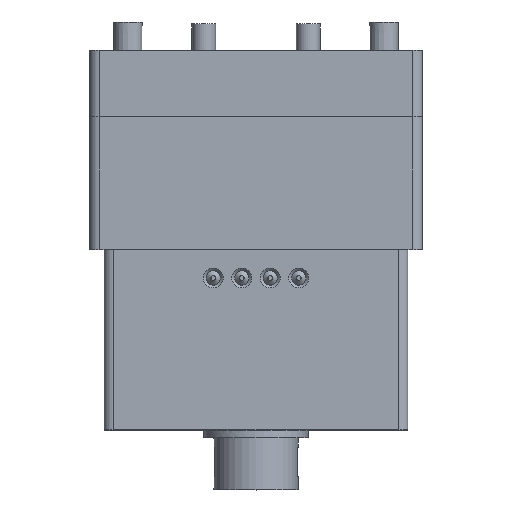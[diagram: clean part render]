
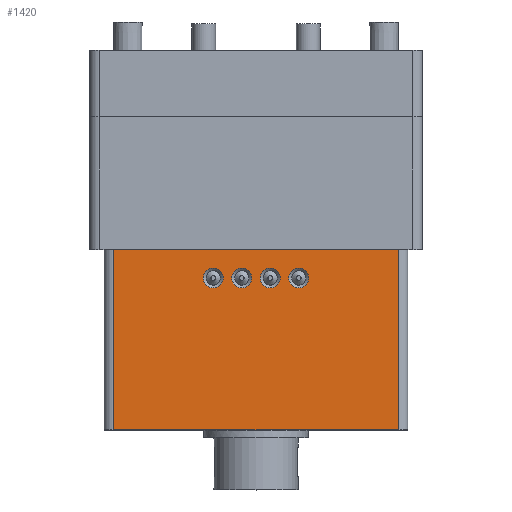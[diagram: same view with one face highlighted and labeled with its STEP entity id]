
A CAD part, top view. The second image highlights one B-rep face of the part: STEP entity #1420.
In plain terms, the highlighted planar face has unit normal (0, 0, 1).
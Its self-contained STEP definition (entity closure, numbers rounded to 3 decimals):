
#1420=ADVANCED_FACE('',(#3397,#3398,#3399,#3400,#3401),#3402,.T.);
#3397=FACE_BOUND('',#5902,.T.);
#3398=FACE_BOUND('',#5903,.T.);
#3399=FACE_BOUND('',#5904,.T.);
#3400=FACE_BOUND('',#5905,.T.);
#3401=FACE_OUTER_BOUND('',#5906,.T.);
#3402=PLANE('',#5907);
#5902=EDGE_LOOP('',(#10645));
#5903=EDGE_LOOP('',(#10646));
#5904=EDGE_LOOP('',(#10647));
#5905=EDGE_LOOP('',(#10648));
#5906=EDGE_LOOP('',(#10649,#10650,#10651,#10652));
#5907=AXIS2_PLACEMENT_3D('',#10653,#10654,#10655);
#10645=ORIENTED_EDGE('',*,*,#14064,.T.);
#10646=ORIENTED_EDGE('',*,*,#14065,.T.);
#10647=ORIENTED_EDGE('',*,*,#14066,.T.);
#10648=ORIENTED_EDGE('',*,*,#14067,.T.);
#10649=ORIENTED_EDGE('',*,*,#14068,.T.);
#10650=ORIENTED_EDGE('',*,*,#13997,.T.);
#10651=ORIENTED_EDGE('',*,*,#14054,.T.);
#10652=ORIENTED_EDGE('',*,*,#14031,.T.);
#10653=CARTESIAN_POINT('',(-16.0,-38.,21.0));
#10654=DIRECTION('',(0.0,0.0,1.0));
#10655=DIRECTION('',(1.0,0.0,0.0));
#13997=EDGE_CURVE('',#15922,#15920,#15923,.T.);
#14031=EDGE_CURVE('',#15969,#15967,#15970,.T.);
#14054=EDGE_CURVE('',#15920,#15969,#15998,.T.);
#14064=EDGE_CURVE('',#16011,#16011,#16012,.T.);
#14065=EDGE_CURVE('',#16013,#16013,#16014,.T.);
#14066=EDGE_CURVE('',#16015,#16015,#16016,.T.);
#14067=EDGE_CURVE('',#16017,#16017,#16018,.T.);
#14068=EDGE_CURVE('',#15967,#15922,#16019,.T.);
#15920=VERTEX_POINT('',#18571);
#15922=VERTEX_POINT('',#18573);
#15923=LINE('',#18574,#18575);
#15967=VERTEX_POINT('',#18636);
#15969=VERTEX_POINT('',#18638);
#15970=LINE('',#18639,#18640);
#15998=LINE('',#18674,#18675);
#16011=VERTEX_POINT('',#18693);
#16012=CIRCLE('',#18694,1.05);
#16013=VERTEX_POINT('',#18695);
#16014=CIRCLE('',#18696,1.05);
#16015=VERTEX_POINT('',#18697);
#16016=CIRCLE('',#18698,1.05);
#16017=VERTEX_POINT('',#18699);
#16018=CIRCLE('',#18700,1.05);
#16019=LINE('',#18701,#18702);
#18571=CARTESIAN_POINT('',(15.0,-40.,21.0));
#18573=CARTESIAN_POINT('',(-15.,-40.,21.0));
#18574=CARTESIAN_POINT('',(-16.0,-40.,21.0));
#18575=VECTOR('',#20209,1.0);
#18636=CARTESIAN_POINT('',(-15.,-21.,21.0));
#18638=CARTESIAN_POINT('',(15.0,-21.,21.0));
#18639=CARTESIAN_POINT('',(16.0,-21.,21.0));
#18640=VECTOR('',#20245,1.0);
#18674=CARTESIAN_POINT('',(15.0,-21.,21.0));
#18675=VECTOR('',#20273,1.0);
#18693=CARTESIAN_POINT('',(-3.45,-24.,21.0));
#18694=AXIS2_PLACEMENT_3D('',#20282,#20283,#20284);
#18695=CARTESIAN_POINT('',(-0.45,-24.,21.0));
#18696=AXIS2_PLACEMENT_3D('',#20285,#20286,#20287);
#18697=CARTESIAN_POINT('',(2.55,-24.,21.0));
#18698=AXIS2_PLACEMENT_3D('',#20288,#20289,#20290);
#18699=CARTESIAN_POINT('',(5.55,-24.,21.0));
#18700=AXIS2_PLACEMENT_3D('',#20291,#20292,#20293);
#18701=CARTESIAN_POINT('',(-15.,-38.,21.0));
#18702=VECTOR('',#20294,1.0);
#20209=DIRECTION('',(1.0,0.0,0.0));
#20245=DIRECTION('',(-1.0,0.0,0.0));
#20273=DIRECTION('',(0.0,1.0,0.0));
#20282=CARTESIAN_POINT('',(-4.5,-24.,21.0));
#20283=DIRECTION('',(0.0,0.0,-1.0));
#20284=DIRECTION('',(1.0,0.0,0.0));
#20285=CARTESIAN_POINT('',(-1.5,-24.,21.0));
#20286=DIRECTION('',(0.0,0.0,-1.0));
#20287=DIRECTION('',(1.0,0.0,0.0));
#20288=CARTESIAN_POINT('',(1.5,-24.,21.0));
#20289=DIRECTION('',(0.0,0.0,-1.0));
#20290=DIRECTION('',(1.0,0.0,0.0));
#20291=CARTESIAN_POINT('',(4.5,-24.,21.0));
#20292=DIRECTION('',(0.0,0.0,-1.0));
#20293=DIRECTION('',(1.0,0.0,0.0));
#20294=DIRECTION('',(0.0,-1.0,0.0));
